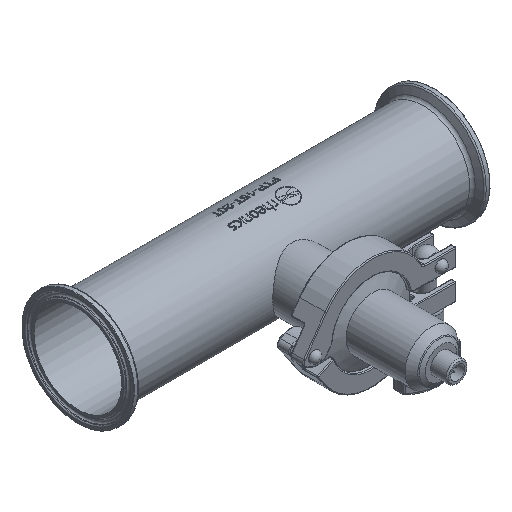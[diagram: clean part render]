
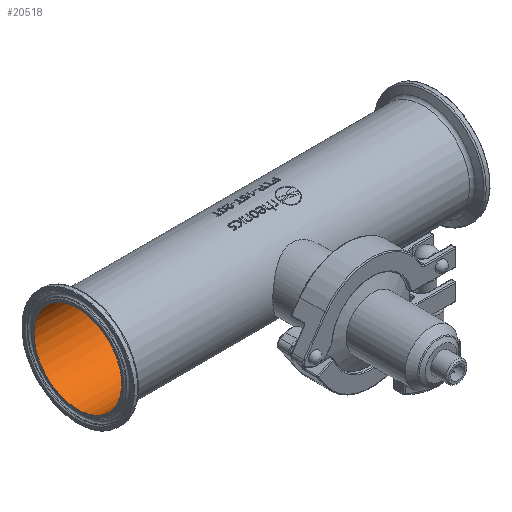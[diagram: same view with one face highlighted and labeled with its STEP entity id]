
A CAD part, isometric view. The second image highlights one B-rep face of the part: STEP entity #20518.
In plain terms, the highlighted cylindrical face has radius 25 mm (diameter 50 mm), a full revolution.
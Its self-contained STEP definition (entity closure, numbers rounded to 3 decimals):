
#942=CIRCLE('',#21588,25.);
#943=CIRCLE('',#21589,25.);
#3252=ORIENTED_EDGE('',*,*,#7971,.F.);
#3253=ORIENTED_EDGE('',*,*,#7972,.F.);
#3254=ORIENTED_EDGE('',*,*,#7973,.F.);
#7971=EDGE_CURVE('',#10331,#10331,#942,.T.);
#7972=EDGE_CURVE('',#10332,#10332,#943,.T.);
#7973=EDGE_CURVE('',#10333,#10333,#11859,.T.);
#10331=VERTEX_POINT('',#26745);
#10332=VERTEX_POINT('',#26747);
#10333=VERTEX_POINT('',#26775);
#11859=B_SPLINE_CURVE_WITH_KNOTS('',3,(#26748,#26749,#26750,#26751,#26752,
#26753,#26754,#26755,#26756,#26757,#26758,#26759,#26760,#26761,#26762,#26763,
#26764,#26765,#26766,#26767,#26768,#26769,#26770,#26771,#26772,#26773,#26774),
 .UNSPECIFIED.,.T.,.F.,(1,1,1,1,1,1,1,1,1,1,1,1,1,1,1,1,1,1,1,1,1,1,1,1,
1,1,1,1,1,1,1),(-0.009,-0.006,-0.003,
0.,0.006,0.012,0.015,
0.018,0.021,0.024,0.027,
0.03,0.036,0.039,0.042,
0.048,0.053,0.059,0.062,
0.065,0.068,0.071,0.077,
0.083,0.086,0.089,0.092,
0.095,0.101,0.107,0.11),
 .UNSPECIFIED.);
#12685=EDGE_LOOP('',(#3252));
#12686=EDGE_LOOP('',(#3253));
#12687=EDGE_LOOP('',(#3254));
#13951=FACE_BOUND('',#12685,.T.);
#13952=FACE_BOUND('',#12686,.T.);
#13953=FACE_BOUND('',#12687,.T.);
#15201=CYLINDRICAL_SURFACE('',#21587,25.);
#20518=ADVANCED_FACE('',(#13951,#13952,#13953),#15201,.F.);
#21587=AXIS2_PLACEMENT_3D('',#26743,#22893,#22894);
#21588=AXIS2_PLACEMENT_3D('',#26744,#22895,#22896);
#21589=AXIS2_PLACEMENT_3D('',#26746,#22897,#22898);
#22893=DIRECTION('',(-1.,0.,0.));
#22894=DIRECTION('',(0.,1.,0.));
#22895=DIRECTION('',(-1.,0.,0.));
#22896=DIRECTION('',(0.,-0.382,0.924));
#22897=DIRECTION('',(1.,0.,0.));
#22898=DIRECTION('',(0.,0.079,-0.997));
#26743=CARTESIAN_POINT('',(43.,51.,0.));
#26744=CARTESIAN_POINT('',(144.5,51.,0.));
#26745=CARTESIAN_POINT('',(144.5,41.454,23.106));
#26746=CARTESIAN_POINT('',(-58.5,51.,0.));
#26747=CARTESIAN_POINT('',(-58.5,52.969,-24.922));
#26748=CARTESIAN_POINT('',(45.986,30.737,-14.649));
#26749=CARTESIAN_POINT('',(42.003,31.044,-15.054));
#26750=CARTESIAN_POINT('',(37.046,30.246,-14.02));
#26751=CARTESIAN_POINT('',(33.077,28.623,-11.332));
#26752=CARTESIAN_POINT('',(30.629,27.401,-8.378));
#26753=CARTESIAN_POINT('',(29.252,26.644,-5.863));
#26754=CARTESIAN_POINT('',(28.357,26.124,-3.012));
#26755=CARTESIAN_POINT('',(28.05,25.94,-0.057));
#26756=CARTESIAN_POINT('',(28.342,26.115,2.95));
#26757=CARTESIAN_POINT('',(29.515,26.797,6.74));
#26758=CARTESIAN_POINT('',(31.692,27.985,9.952));
#26759=CARTESIAN_POINT('',(34.638,29.255,12.38));
#26760=CARTESIAN_POINT('',(37.975,30.391,14.206));
#26761=CARTESIAN_POINT('',(42.955,31.213,15.269));
#26762=CARTESIAN_POINT('',(48.932,30.252,14.031));
#26763=CARTESIAN_POINT('',(52.913,28.628,11.341));
#26764=CARTESIAN_POINT('',(55.367,27.404,8.387));
#26765=CARTESIAN_POINT('',(56.748,26.644,5.862));
#26766=CARTESIAN_POINT('',(57.643,26.124,3.015));
#26767=CARTESIAN_POINT('',(58.056,25.876,-0.955));
#26768=CARTESIAN_POINT('',(57.028,26.499,-5.961));
#26769=CARTESIAN_POINT('',(54.291,27.994,-9.971));
#26770=CARTESIAN_POINT('',(51.332,29.267,-12.402));
#26771=CARTESIAN_POINT('',(48.821,30.116,-13.764));
#26772=CARTESIAN_POINT('',(45.986,30.737,-14.649));
#26773=CARTESIAN_POINT('',(42.003,31.044,-15.054));
#26774=CARTESIAN_POINT('',(37.046,30.246,-14.02));
#26775=CARTESIAN_POINT('',(43.,30.888,-14.85));
